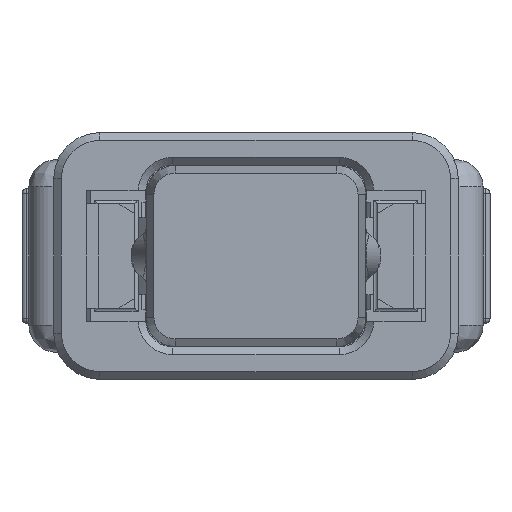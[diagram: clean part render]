
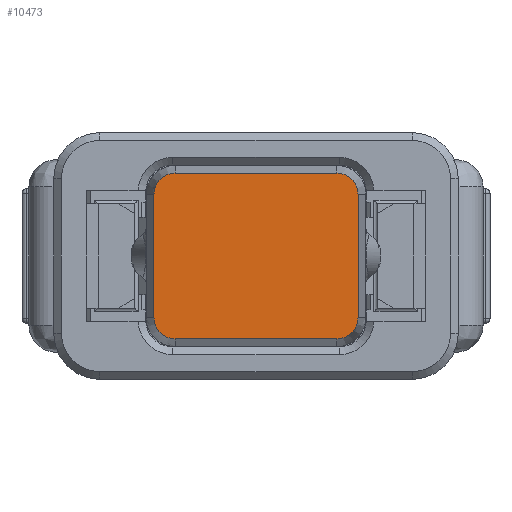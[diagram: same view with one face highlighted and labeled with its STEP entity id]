
A CAD part, front view. The second image highlights one B-rep face of the part: STEP entity #10473.
In plain terms, the highlighted planar face has unit normal (0, -1, 0).
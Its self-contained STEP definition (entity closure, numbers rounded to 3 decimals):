
#1829=CARTESIAN_POINT('',(-2.1,-0.5,1.6));
#1830=DIRECTION('',(0.,-1.,0.));
#1831=DIRECTION('',(0.,0.,1.));
#1832=AXIS2_PLACEMENT_3D('',#1829,#1830,#1831);
#1834=DIRECTION('',(-1.,0.,0.));
#1835=VECTOR('',#1834,4.2);
#1836=CARTESIAN_POINT('',(2.1,-0.5,
2.15));
#1837=LINE('',#1836,#1835);
#1838=CARTESIAN_POINT('',(2.1,-0.5,1.6));
#1839=DIRECTION('',(0.,-1.,0.));
#1840=DIRECTION('',(1.,0.,0.));
#1841=AXIS2_PLACEMENT_3D('',#1838,#1839,#1840);
#1843=DIRECTION('',(0.,0.,1.));
#1844=VECTOR('',#1843,3.2);
#1845=CARTESIAN_POINT('',(2.65,-0.5,
-1.6));
#1846=LINE('',#1845,#1844);
#1847=CARTESIAN_POINT('',(2.1,-0.5,-1.6));
#1848=DIRECTION('',(0.,-1.,0.));
#1849=DIRECTION('',(0.,0.,-1.));
#1850=AXIS2_PLACEMENT_3D('',#1847,#1848,#1849);
#1852=DIRECTION('',(1.,0.,0.));
#1853=VECTOR('',#1852,4.2);
#1854=CARTESIAN_POINT('',(-2.1,-0.5,
-2.15));
#1855=LINE('',#1854,#1853);
#1856=CARTESIAN_POINT('',(-2.1,-0.5,-1.6));
#1857=DIRECTION('',(0.,-1.,0.));
#1858=DIRECTION('',(-1.,0.,0.));
#1859=AXIS2_PLACEMENT_3D('',#1856,#1857,#1858);
#1861=DIRECTION('',(0.,0.,-1.));
#1862=VECTOR('',#1861,3.2);
#1863=CARTESIAN_POINT('',(-2.65,-0.5,
1.6));
#1864=LINE('',#1863,#1862);
#5994=CARTESIAN_POINT('',(-2.1,-0.5,2.15));
#5995=CARTESIAN_POINT('',(-2.65,-0.5,1.6));
#5996=VERTEX_POINT('',#5994);
#5997=VERTEX_POINT('',#5995);
#6000=CARTESIAN_POINT('',(-2.65,-0.5,
-1.6));
#6001=VERTEX_POINT('',#6000);
#6004=CARTESIAN_POINT('',(-2.1,-0.5,-2.15));
#6005=VERTEX_POINT('',#6004);
#6007=CARTESIAN_POINT('',(2.1,-0.5,
-2.15));
#6008=VERTEX_POINT('',#6007);
#6011=CARTESIAN_POINT('',(2.65,-0.5,-1.6));
#6012=VERTEX_POINT('',#6011);
#6014=CARTESIAN_POINT('',(2.65,-0.5,
1.6));
#6015=VERTEX_POINT('',#6014);
#6018=CARTESIAN_POINT('',(2.1,-0.5,2.15));
#6019=VERTEX_POINT('',#6018);
#10451=CARTESIAN_POINT('',(2.85,-0.5,-1.95));
#10452=DIRECTION('',(0.,-1.,0.));
#10453=DIRECTION('',(1.,0.,0.));
#10454=AXIS2_PLACEMENT_3D('',#10451,#10452,#10453);
#10455=PLANE('',#10454);
#10457=ORIENTED_EDGE('',*,*,#10456,.F.);
#10459=ORIENTED_EDGE('',*,*,#10458,.F.);
#10461=ORIENTED_EDGE('',*,*,#10460,.F.);
#10462=ORIENTED_EDGE('',*,*,#10434,.F.);
#10464=ORIENTED_EDGE('',*,*,#10463,.F.);
#10466=ORIENTED_EDGE('',*,*,#10465,.F.);
#10468=ORIENTED_EDGE('',*,*,#10467,.F.);
#10470=ORIENTED_EDGE('',*,*,#10469,.F.);
#10471=EDGE_LOOP('',(#10457,#10459,#10461,#10462,#10464,#10466,#10468,#10470));
#10472=FACE_OUTER_BOUND('',#10471,.F.);
#10473=ADVANCED_FACE('',(#10472),#10455,.T.);
#1833=CIRCLE('',#1832,0.55);
#1842=CIRCLE('',#1841,0.55);
#1851=CIRCLE('',#1850,0.55);
#1860=CIRCLE('',#1859,0.55);
#10434=EDGE_CURVE('',#6012,#6015,#1846,.T.);
#10456=EDGE_CURVE('',#5996,#5997,#1833,.T.);
#10458=EDGE_CURVE('',#6019,#5996,#1837,.T.);
#10460=EDGE_CURVE('',#6015,#6019,#1842,.T.);
#10463=EDGE_CURVE('',#6008,#6012,#1851,.T.);
#10465=EDGE_CURVE('',#6005,#6008,#1855,.T.);
#10467=EDGE_CURVE('',#6001,#6005,#1860,.T.);
#10469=EDGE_CURVE('',#5997,#6001,#1864,.T.);
